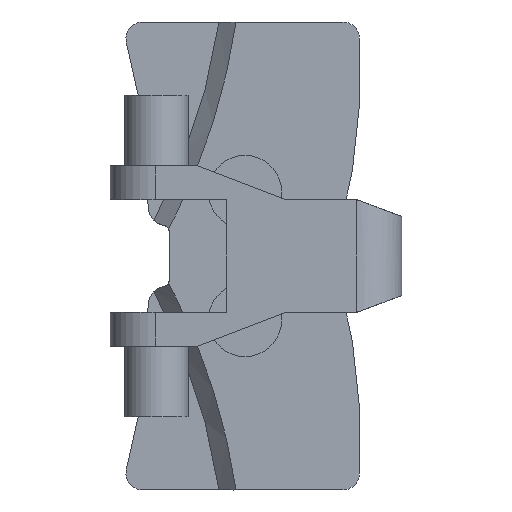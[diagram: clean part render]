
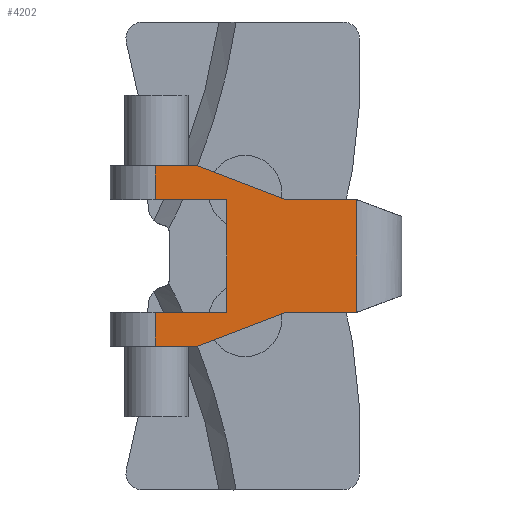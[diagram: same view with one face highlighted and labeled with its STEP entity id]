
A CAD part, front view. The second image highlights one B-rep face of the part: STEP entity #4202.
In plain terms, the highlighted planar face has unit normal (0, -1, 0).
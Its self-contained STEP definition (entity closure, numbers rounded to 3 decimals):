
#7 = VECTOR ( 'NONE', #1192, 1000. ) ;
#128 = LINE ( 'NONE', #934, #2030 ) ;
#165 = CARTESIAN_POINT ( 'NONE',  ( 35.712, -19.776, -11.499 ) ) ;
#195 = CARTESIAN_POINT ( 'NONE',  ( 21.338, -19.776, -21.499 ) ) ;
#221 = ORIENTED_EDGE ( 'NONE', *, *, #3102, .T. ) ;
#234 = CARTESIAN_POINT ( 'NONE',  ( 29.17, -19.776, -37.366 ) ) ;
#348 = ORIENTED_EDGE ( 'NONE', *, *, #2213, .T. ) ;
#372 = CARTESIAN_POINT ( 'NONE',  ( 21.338, -19.776, -5.499 ) ) ;
#401 = CARTESIAN_POINT ( 'NONE',  ( 34.038, -19.776, -21.499 ) ) ;
#563 = EDGE_CURVE ( 'NONE', #1779, #3099, #3354, .T. ) ;
#602 = ORIENTED_EDGE ( 'NONE', *, *, #3648, .T. ) ;
#731 = CARTESIAN_POINT ( 'NONE',  ( 35.712, -19.776, -37.499 ) ) ;
#757 = DIRECTION ( 'NONE',  ( 1., 0., 0. ) ) ;
#773 = EDGE_CURVE ( 'NONE', #3119, #2472, #1689, .T. ) ;
#779 = PLANE ( 'NONE',  #4213 ) ;
#799 = LINE ( 'NONE', #2845, #3853 ) ;
#805 = DIRECTION ( 'NONE',  ( -1., 0., 0. ) ) ;
#828 = DIRECTION ( 'NONE',  ( -1., 0., 0. ) ) ;
#837 = VECTOR ( 'NONE', #1843, 1000. ) ;
#900 = CARTESIAN_POINT ( 'NONE',  ( 28.453, -19.776, -35.499 ) ) ;
#934 = CARTESIAN_POINT ( 'NONE',  ( 21.338, -19.776, -21.499 ) ) ;
#939 = CARTESIAN_POINT ( 'NONE',  ( 57.038, -19.776, -31.499 ) ) ;
#957 = EDGE_CURVE ( 'NONE', #1225, #1894, #799, .T. ) ;
#960 = VECTOR ( 'NONE', #3604, 1000. ) ;
#961 = ORIENTED_EDGE ( 'NONE', *, *, #4097, .T. ) ;
#988 = DIRECTION ( 'NONE',  ( 1., 0., 0. ) ) ;
#1020 = LINE ( 'NONE', #3303, #7 ) ;
#1071 = DIRECTION ( 'NONE',  ( 0., -1., 0. ) ) ;
#1176 = LINE ( 'NONE', #195, #960 ) ;
#1192 = DIRECTION ( 'NONE',  ( -1., 0., 0. ) ) ;
#1219 = LINE ( 'NONE', #3486, #1281 ) ;
#1225 = VERTEX_POINT ( 'NONE', #2403 ) ;
#1229 = CIRCLE ( 'NONE', #1327, 2. ) ;
#1281 = VECTOR ( 'NONE', #4212, 1000. ) ;
#1286 = LINE ( 'NONE', #401, #1344 ) ;
#1315 = VECTOR ( 'NONE', #2966, 1000. ) ;
#1322 = LINE ( 'NONE', #165, #2140 ) ;
#1327 = AXIS2_PLACEMENT_3D ( 'NONE', #900, #4079, #3324 ) ;
#1344 = VECTOR ( 'NONE', #3534, 1000. ) ;
#1429 = VECTOR ( 'NONE', #988, 1000. ) ;
#1489 = ORIENTED_EDGE ( 'NONE', *, *, #2563, .T. ) ;
#1504 = EDGE_CURVE ( 'NONE', #3119, #3284, #1758, .T. ) ;
#1543 = CARTESIAN_POINT ( 'NONE',  ( 28.453, -19.776, -7.499 ) ) ;
#1672 = VERTEX_POINT ( 'NONE', #939 ) ;
#1689 = LINE ( 'NONE', #1941, #4123 ) ;
#1716 = ORIENTED_EDGE ( 'NONE', *, *, #2021, .T. ) ;
#1758 = CIRCLE ( 'NONE', #4143, 2. ) ;
#1764 = VERTEX_POINT ( 'NONE', #4117 ) ;
#1767 = ORIENTED_EDGE ( 'NONE', *, *, #3267, .T. ) ;
#1779 = VERTEX_POINT ( 'NONE', #234 ) ;
#1843 = DIRECTION ( 'NONE',  ( 1., 0., 0. ) ) ;
#1894 = VERTEX_POINT ( 'NONE', #3188 ) ;
#1902 = CARTESIAN_POINT ( 'NONE',  ( 29.17, -19.776, -5.631 ) ) ;
#1941 = CARTESIAN_POINT ( 'NONE',  ( 35.712, -19.776, -5.499 ) ) ;
#1997 = ORIENTED_EDGE ( 'NONE', *, *, #773, .T. ) ;
#2021 = EDGE_CURVE ( 'NONE', #4206, #2900, #1322, .T. ) ;
#2030 = VECTOR ( 'NONE', #3359, 1000. ) ;
#2055 = CARTESIAN_POINT ( 'NONE',  ( 35.712, -19.776, -31.499 ) ) ;
#2140 = VECTOR ( 'NONE', #805, 1000. ) ;
#2173 = LINE ( 'NONE', #731, #837 ) ;
#2213 = EDGE_CURVE ( 'NONE', #3099, #1672, #3266, .T. ) ;
#2231 = EDGE_CURVE ( 'NONE', #2472, #1225, #128, .T. ) ;
#2292 = FACE_OUTER_BOUND ( 'NONE', #4204, .T. ) ;
#2296 = CARTESIAN_POINT ( 'NONE',  ( 28.453, -19.776, -37.499 ) ) ;
#2322 = LINE ( 'NONE', #4352, #1315 ) ;
#2403 = CARTESIAN_POINT ( 'NONE',  ( 21.338, -19.776, -11.499 ) ) ;
#2443 = CARTESIAN_POINT ( 'NONE',  ( 29.17, -19.776, -37.366 ) ) ;
#2472 = VERTEX_POINT ( 'NONE', #372 ) ;
#2480 = VERTEX_POINT ( 'NONE', #3131 ) ;
#2563 = EDGE_CURVE ( 'NONE', #1894, #1764, #1286, .T. ) ;
#2571 = CARTESIAN_POINT ( 'NONE',  ( 21.338, -19.776, -37.499 ) ) ;
#2646 = ORIENTED_EDGE ( 'NONE', *, *, #1504, .F. ) ;
#2668 = VECTOR ( 'NONE', #3843, 1000. ) ;
#2708 = CARTESIAN_POINT ( 'NONE',  ( 44.46, -19.776, -11.499 ) ) ;
#2845 = CARTESIAN_POINT ( 'NONE',  ( 35.712, -19.776, -11.499 ) ) ;
#2889 = CARTESIAN_POINT ( 'NONE',  ( 35.712, -19.776, -21.499 ) ) ;
#2900 = VERTEX_POINT ( 'NONE', #2708 ) ;
#2966 = DIRECTION ( 'NONE',  ( -0.934, 0., 0.358 ) ) ;
#3099 = VERTEX_POINT ( 'NONE', #3460 ) ;
#3102 = EDGE_CURVE ( 'NONE', #1672, #4206, #1219, .T. ) ;
#3119 = VERTEX_POINT ( 'NONE', #3809 ) ;
#3131 = CARTESIAN_POINT ( 'NONE',  ( 21.338, -19.776, -31.499 ) ) ;
#3154 = ORIENTED_EDGE ( 'NONE', *, *, #4334, .F. ) ;
#3188 = CARTESIAN_POINT ( 'NONE',  ( 34.038, -19.776, -11.499 ) ) ;
#3266 = LINE ( 'NONE', #2055, #1429 ) ;
#3267 = EDGE_CURVE ( 'NONE', #2900, #3284, #2322, .T. ) ;
#3284 = VERTEX_POINT ( 'NONE', #1902 ) ;
#3303 = CARTESIAN_POINT ( 'NONE',  ( 35.712, -19.776, -31.499 ) ) ;
#3321 = ORIENTED_EDGE ( 'NONE', *, *, #957, .T. ) ;
#3324 = DIRECTION ( 'NONE',  ( 0., 0., -1. ) ) ;
#3354 = LINE ( 'NONE', #2443, #2668 ) ;
#3359 = DIRECTION ( 'NONE',  ( 0., 0., -1. ) ) ;
#3460 = CARTESIAN_POINT ( 'NONE',  ( 44.46, -19.776, -31.499 ) ) ;
#3486 = CARTESIAN_POINT ( 'NONE',  ( 57.038, -19.776, -21.499 ) ) ;
#3504 = ORIENTED_EDGE ( 'NONE', *, *, #2231, .T. ) ;
#3534 = DIRECTION ( 'NONE',  ( 0., 0., -1. ) ) ;
#3603 = VERTEX_POINT ( 'NONE', #2571 ) ;
#3604 = DIRECTION ( 'NONE',  ( 0., 0., -1. ) ) ;
#3628 = DIRECTION ( 'NONE',  ( 0., 1., 0. ) ) ;
#3648 = EDGE_CURVE ( 'NONE', #1764, #2480, #1020, .T. ) ;
#3760 = VERTEX_POINT ( 'NONE', #2296 ) ;
#3809 = CARTESIAN_POINT ( 'NONE',  ( 28.453, -19.776, -5.499 ) ) ;
#3843 = DIRECTION ( 'NONE',  ( 0.934, 0., 0.358 ) ) ;
#3853 = VECTOR ( 'NONE', #757, 1000. ) ;
#3857 = ORIENTED_EDGE ( 'NONE', *, *, #563, .T. ) ;
#3946 = DIRECTION ( 'NONE',  ( 0., 0., -1. ) ) ;
#4019 = DIRECTION ( 'NONE',  ( 0., 0., -1. ) ) ;
#4079 = DIRECTION ( 'NONE',  ( 0., 1., 0. ) ) ;
#4097 = EDGE_CURVE ( 'NONE', #3603, #3760, #2173, .T. ) ;
#4117 = CARTESIAN_POINT ( 'NONE',  ( 34.038, -19.776, -31.499 ) ) ;
#4123 = VECTOR ( 'NONE', #828, 1000. ) ;
#4143 = AXIS2_PLACEMENT_3D ( 'NONE', #1543, #3628, #4019 ) ;
#4202 = ADVANCED_FACE ( 'NONE', ( #2292 ), #779, .T. ) ;
#4204 = EDGE_LOOP ( 'NONE', ( #602, #4486, #961, #3154, #3857, #348, #221, #1716, #1767, #2646, #1997, #3504, #3321, #1489 ) ) ;
#4206 = VERTEX_POINT ( 'NONE', #4338 ) ;
#4210 = EDGE_CURVE ( 'NONE', #2480, #3603, #1176, .T. ) ;
#4212 = DIRECTION ( 'NONE',  ( 0., 0., 1. ) ) ;
#4213 = AXIS2_PLACEMENT_3D ( 'NONE', #2889, #1071, #3946 ) ;
#4334 = EDGE_CURVE ( 'NONE', #1779, #3760, #1229, .T. ) ;
#4338 = CARTESIAN_POINT ( 'NONE',  ( 57.038, -19.776, -11.499 ) ) ;
#4352 = CARTESIAN_POINT ( 'NONE',  ( 44.46, -19.776, -11.499 ) ) ;
#4486 = ORIENTED_EDGE ( 'NONE', *, *, #4210, .T. ) ;
